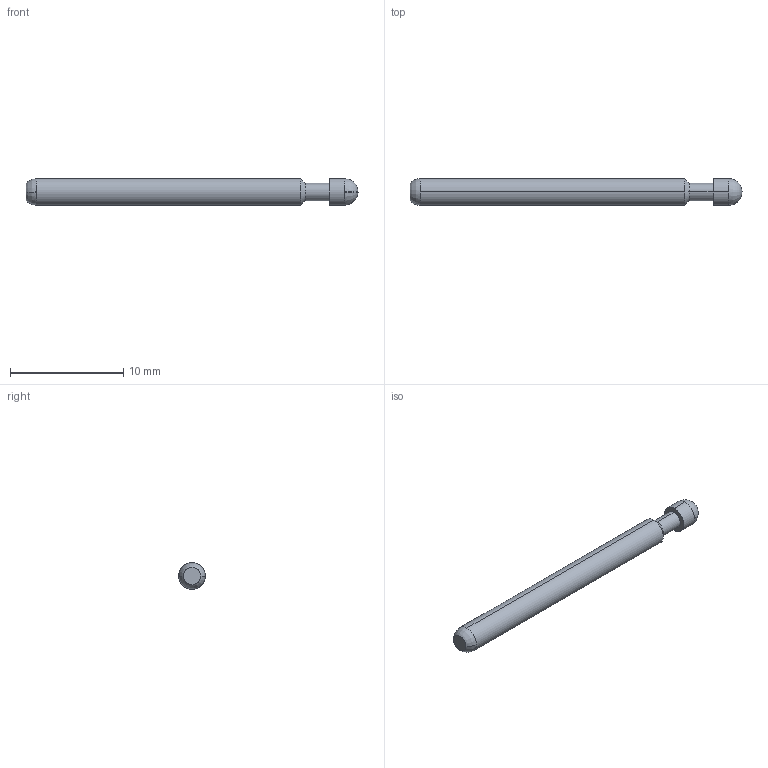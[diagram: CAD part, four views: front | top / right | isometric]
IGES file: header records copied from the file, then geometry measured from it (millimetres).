
Start section: SolidWorks IGES file using analytic representation for surfaces
Global section: file name: Z:\probe solid model mockups\Solidworks models\IGES Files\EPA-4 IGES files\EPA-4D RECD.IGS; native system: SolidWorks 2006 by SolidWorks Corporation; preprocessor: SolidWorks 2006 by SolidWorks Corporation; author: tsakatani; date: 080103.104241; units: inch
Bounding box: 29.29 x 2.36 x 2.36 mm (x, y, z)
Surface area: 216.7 mm2 (no closed solid volume)
Topology: 0 solids, 0 shells, 14 faces, 120 edges, 118 vertices
Faces by surface type: revolution 12, bspline 2
